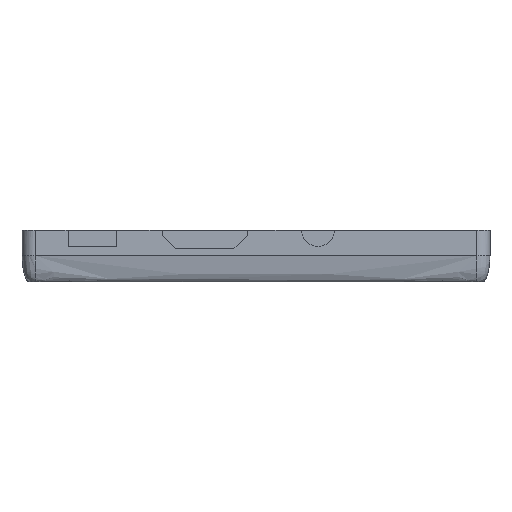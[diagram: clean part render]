
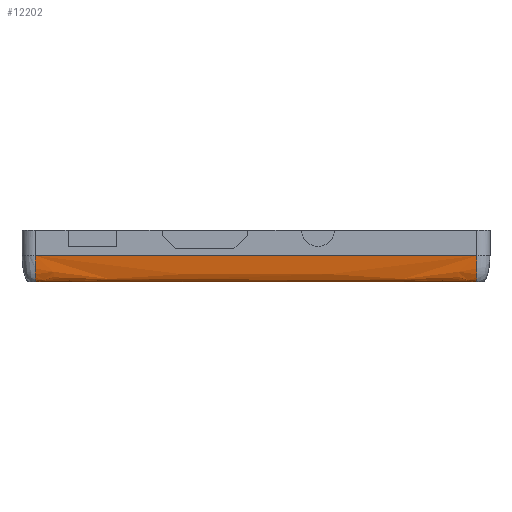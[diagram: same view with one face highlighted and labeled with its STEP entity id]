
A CAD part, front view. The second image highlights one B-rep face of the part: STEP entity #12202.
In plain terms, the highlighted free-form (B-spline) face has degree [2, 3] with [3, 4] control points.
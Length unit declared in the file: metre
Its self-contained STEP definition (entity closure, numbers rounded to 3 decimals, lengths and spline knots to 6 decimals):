
#342=(
BOUNDED_SURFACE()
B_SPLINE_SURFACE(2,3,((#18733,#18734,#18735,#18736),(#18737,#18738,#18739,
#18740),(#18741,#18742,#18743,#18744)),.UNSPECIFIED.,.F.,.F.,.F.)
B_SPLINE_SURFACE_WITH_KNOTS((3,3),(4,4),(0.,1.),(-0.042017,0.042017),
 .PIECEWISE_BEZIER_KNOTS.)
GEOMETRIC_REPRESENTATION_ITEM()
RATIONAL_B_SPLINE_SURFACE(((1.,1.,1.,1.),(0.707,0.707,
0.707,0.707),(1.,1.,1.,1.)))
REPRESENTATION_ITEM('')
SURFACE()
);
#348=B_SPLINE_CURVE_WITH_KNOTS('',3,(#16805,#16806,#16807,#16808),
 .UNSPECIFIED.,.F.,.F.,(4,4),(0.,1.),.UNSPECIFIED.);
#359=B_SPLINE_CURVE_WITH_KNOTS('',3,(#16977,#16978,#16979,#16980),
 .UNSPECIFIED.,.F.,.F.,(4,4),(0.,1.),.UNSPECIFIED.);
#588=B_SPLINE_CURVE_WITH_KNOTS('',3,(#18717,#18718,#18719,#18720,#18721,
#18722,#18723),.UNSPECIFIED.,.F.,.F.,(4,1,1,1,4),(0.,0.25,0.5,0.75,1.),
 .UNSPECIFIED.);
#591=B_SPLINE_CURVE_WITH_KNOTS('',3,(#18745,#18746,#18747,#18748,#18749,
#18750,#18751),.UNSPECIFIED.,.F.,.F.,(4,1,1,1,4),(0.,0.25,0.5,0.75,1.),
 .UNSPECIFIED.);
#3970=ORIENTED_EDGE('',*,*,#7511,.T.);
#3971=ORIENTED_EDGE('',*,*,#6935,.F.);
#3972=ORIENTED_EDGE('',*,*,#7514,.F.);
#3973=ORIENTED_EDGE('',*,*,#6990,.F.);
#6935=EDGE_CURVE('',#8818,#8819,#348,.T.);
#6990=EDGE_CURVE('',#8856,#8857,#359,.T.);
#7511=EDGE_CURVE('',#8856,#8819,#588,.F.);
#7514=EDGE_CURVE('',#8857,#8818,#591,.F.);
#8818=VERTEX_POINT('',#16804);
#8819=VERTEX_POINT('',#16809);
#8856=VERTEX_POINT('',#16976);
#8857=VERTEX_POINT('',#16981);
#10475=EDGE_LOOP('',(#3970,#3971,#3972,#3973));
#11272=FACE_BOUND('',#10475,.T.);
#12202=ADVANCED_FACE('',(#11272),#342,.T.);
#16804=CARTESIAN_POINT('',(-0.042015,-0.030665,0.005));
#16805=CARTESIAN_POINT('',(-0.042015,-0.030665,0.005));
#16806=CARTESIAN_POINT('',(-0.014004,-0.030665,0.005));
#16807=CARTESIAN_POINT('',(0.014007,-0.030665,0.005));
#16808=CARTESIAN_POINT('',(0.042018,-0.030665,0.005));
#16809=CARTESIAN_POINT('',(0.042018,-0.030665,0.005));
#16976=CARTESIAN_POINT('',(0.042018,-0.029165,0.));
#16977=CARTESIAN_POINT('',(0.042018,-0.029165,0.));
#16978=CARTESIAN_POINT('',(0.014007,-0.029165,0.));
#16979=CARTESIAN_POINT('',(-0.014004,-0.029165,0.));
#16980=CARTESIAN_POINT('',(-0.042015,-0.029165,0.));
#16981=CARTESIAN_POINT('',(-0.042015,-0.029165,0.));
#18717=CARTESIAN_POINT('',(0.042018,-0.030665,0.005));
#18718=CARTESIAN_POINT('',(0.042018,-0.030665,0.004411));
#18719=CARTESIAN_POINT('',(0.042018,-0.030601,0.003138));
#18720=CARTESIAN_POINT('',(0.042018,-0.030257,0.001359));
#18721=CARTESIAN_POINT('',(0.042018,-0.029724,0.000214));
#18722=CARTESIAN_POINT('',(0.042018,-0.029342,0.));
#18723=CARTESIAN_POINT('',(0.042018,-0.029165,0.));
#18733=CARTESIAN_POINT('',(-0.042015,-0.030665,0.005));
#18734=CARTESIAN_POINT('',(-0.014004,-0.030665,0.005));
#18735=CARTESIAN_POINT('',(0.014007,-0.030665,0.005));
#18736=CARTESIAN_POINT('',(0.042018,-0.030665,0.005));
#18737=CARTESIAN_POINT('',(-0.042015,-0.030665,0.));
#18738=CARTESIAN_POINT('',(-0.014004,-0.030665,0.));
#18739=CARTESIAN_POINT('',(0.014007,-0.030665,0.));
#18740=CARTESIAN_POINT('',(0.042018,-0.030665,0.));
#18741=CARTESIAN_POINT('',(-0.042015,-0.029165,0.));
#18742=CARTESIAN_POINT('',(-0.014004,-0.029165,0.));
#18743=CARTESIAN_POINT('',(0.014007,-0.029165,0.));
#18744=CARTESIAN_POINT('',(0.042018,-0.029165,0.));
#18745=CARTESIAN_POINT('',(-0.042015,-0.030665,0.005));
#18746=CARTESIAN_POINT('',(-0.042015,-0.030665,0.004411));
#18747=CARTESIAN_POINT('',(-0.042015,-0.030601,0.003138));
#18748=CARTESIAN_POINT('',(-0.042015,-0.030257,0.001359));
#18749=CARTESIAN_POINT('',(-0.042015,-0.029724,0.000214));
#18750=CARTESIAN_POINT('',(-0.042015,-0.029342,0.));
#18751=CARTESIAN_POINT('',(-0.042015,-0.029165,0.));
